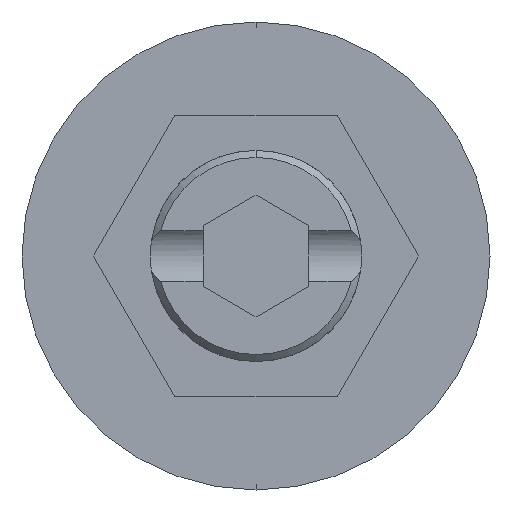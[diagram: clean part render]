
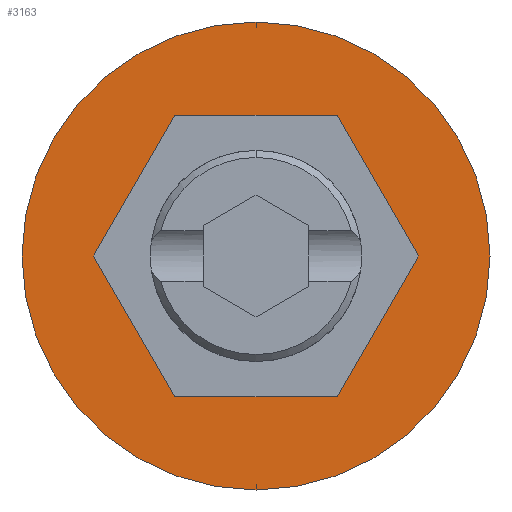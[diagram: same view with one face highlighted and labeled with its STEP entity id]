
A CAD part, front view. The second image highlights one B-rep face of the part: STEP entity #3163.
In plain terms, the highlighted planar face has unit normal (0, -1, 0).
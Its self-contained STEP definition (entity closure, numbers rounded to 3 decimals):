
#56 = ORIENTED_EDGE ( 'NONE', *, *, #996, .F. ) ;
#125 = VECTOR ( 'NONE', #607, 1000. ) ;
#131 = VERTEX_POINT ( 'NONE', #1198 ) ;
#142 = ORIENTED_EDGE ( 'NONE', *, *, #2843, .T. ) ;
#173 = DIRECTION ( 'NONE',  ( 0., -1., 0. ) ) ;
#181 = VERTEX_POINT ( 'NONE', #1404 ) ;
#257 = EDGE_LOOP ( 'NONE', ( #2943, #2681, #1719, #2541, #1475, #56 ) ) ;
#376 = EDGE_CURVE ( 'NONE', #181, #1724, #3087, .T. ) ;
#409 = CARTESIAN_POINT ( 'NONE',  ( 0., 0., -6.65 ) ) ;
#419 = VECTOR ( 'NONE', #1736, 1000. ) ;
#439 = AXIS2_PLACEMENT_3D ( 'NONE', #2701, #173, #1977 ) ;
#564 = VERTEX_POINT ( 'NONE', #409 ) ;
#569 = CARTESIAN_POINT ( 'NONE',  ( -2.309, 0., -4. ) ) ;
#591 = CARTESIAN_POINT ( 'NONE',  ( 0., 0., 6.65 ) ) ;
#603 = VECTOR ( 'NONE', #2889, 1000. ) ;
#607 = DIRECTION ( 'NONE',  ( -0.5, 0., 0.866 ) ) ;
#615 = LINE ( 'NONE', #2829, #756 ) ;
#706 = DIRECTION ( 'NONE',  ( 0.5, 0., -0.866 ) ) ;
#711 = CARTESIAN_POINT ( 'NONE',  ( 2.309, 0., 4. ) ) ;
#742 = VERTEX_POINT ( 'NONE', #591 ) ;
#756 = VECTOR ( 'NONE', #1330, 1000. ) ;
#824 = AXIS2_PLACEMENT_3D ( 'NONE', #3188, #1975, #1910 ) ;
#936 = VECTOR ( 'NONE', #2214, 1000. ) ;
#996 = EDGE_CURVE ( 'NONE', #3226, #2648, #1626, .T. ) ;
#1000 = CARTESIAN_POINT ( 'NONE',  ( 4.619, 0., 0. ) ) ;
#1049 = CARTESIAN_POINT ( 'NONE',  ( 0., 0., 0. ) ) ;
#1195 = EDGE_CURVE ( 'NONE', #2712, #3226, #615, .T. ) ;
#1198 = CARTESIAN_POINT ( 'NONE',  ( -4.619, 0., 0. ) ) ;
#1204 = CIRCLE ( 'NONE', #824, 6.65 ) ;
#1205 = FACE_BOUND ( 'NONE', #257, .T. ) ;
#1318 = DIRECTION ( 'NONE',  ( 0., 0., -1. ) ) ;
#1330 = DIRECTION ( 'NONE',  ( 1., 0., 0. ) ) ;
#1404 = CARTESIAN_POINT ( 'NONE',  ( 2.309, 0., 4. ) ) ;
#1444 = ORIENTED_EDGE ( 'NONE', *, *, #1865, .T. ) ;
#1470 = CARTESIAN_POINT ( 'NONE',  ( 2.309, 0., -4. ) ) ;
#1475 = ORIENTED_EDGE ( 'NONE', *, *, #2095, .F. ) ;
#1626 = LINE ( 'NONE', #1470, #936 ) ;
#1719 = ORIENTED_EDGE ( 'NONE', *, *, #1821, .F. ) ;
#1724 = VERTEX_POINT ( 'NONE', #2999 ) ;
#1736 = DIRECTION ( 'NONE',  ( -1., 0., 0. ) ) ;
#1752 = CARTESIAN_POINT ( 'NONE',  ( 2.309, 0., -4. ) ) ;
#1821 = EDGE_CURVE ( 'NONE', #1724, #131, #3038, .T. ) ;
#1865 = EDGE_CURVE ( 'NONE', #564, #742, #1204, .T. ) ;
#1910 = DIRECTION ( 'NONE',  ( 0., 0., -1. ) ) ;
#1975 = DIRECTION ( 'NONE',  ( 0., -1., 0. ) ) ;
#1977 = DIRECTION ( 'NONE',  ( 0., 0., -1. ) ) ;
#2095 = EDGE_CURVE ( 'NONE', #2648, #181, #2791, .T. ) ;
#2214 = DIRECTION ( 'NONE',  ( 0.5, 0., 0.866 ) ) ;
#2242 = CARTESIAN_POINT ( 'NONE',  ( -4.619, 0., 0. ) ) ;
#2395 = CARTESIAN_POINT ( 'NONE',  ( 4.619, 0., 0. ) ) ;
#2460 = CIRCLE ( 'NONE', #2953, 6.65 ) ;
#2494 = EDGE_LOOP ( 'NONE', ( #1444, #142 ) ) ;
#2541 = ORIENTED_EDGE ( 'NONE', *, *, #376, .F. ) ;
#2648 = VERTEX_POINT ( 'NONE', #1000 ) ;
#2681 = ORIENTED_EDGE ( 'NONE', *, *, #3210, .F. ) ;
#2701 = CARTESIAN_POINT ( 'NONE',  ( 0., 0., 0. ) ) ;
#2712 = VERTEX_POINT ( 'NONE', #569 ) ;
#2791 = LINE ( 'NONE', #2395, #125 ) ;
#2795 = DIRECTION ( 'NONE',  ( 0., -1., 0. ) ) ;
#2829 = CARTESIAN_POINT ( 'NONE',  ( -2.309, 0., -4. ) ) ;
#2843 = EDGE_CURVE ( 'NONE', #742, #564, #2460, .T. ) ;
#2848 = CARTESIAN_POINT ( 'NONE',  ( -2.309, 0., 4. ) ) ;
#2889 = DIRECTION ( 'NONE',  ( -0.5, 0., -0.866 ) ) ;
#2942 = PLANE ( 'NONE',  #439 ) ;
#2943 = ORIENTED_EDGE ( 'NONE', *, *, #1195, .F. ) ;
#2953 = AXIS2_PLACEMENT_3D ( 'NONE', #1049, #2795, #1318 ) ;
#2957 = LINE ( 'NONE', #2242, #3031 ) ;
#2999 = CARTESIAN_POINT ( 'NONE',  ( -2.309, 0., 4. ) ) ;
#3031 = VECTOR ( 'NONE', #706, 1000. ) ;
#3038 = LINE ( 'NONE', #2848, #603 ) ;
#3087 = LINE ( 'NONE', #711, #419 ) ;
#3120 = FACE_OUTER_BOUND ( 'NONE', #2494, .T. ) ;
#3163 = ADVANCED_FACE ( 'NONE', ( #1205, #3120 ), #2942, .T. ) ;
#3188 = CARTESIAN_POINT ( 'NONE',  ( 0., 0., 0. ) ) ;
#3210 = EDGE_CURVE ( 'NONE', #131, #2712, #2957, .T. ) ;
#3226 = VERTEX_POINT ( 'NONE', #1752 ) ;
